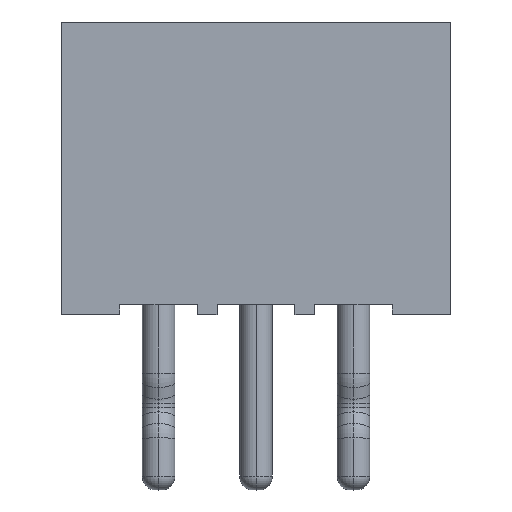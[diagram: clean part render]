
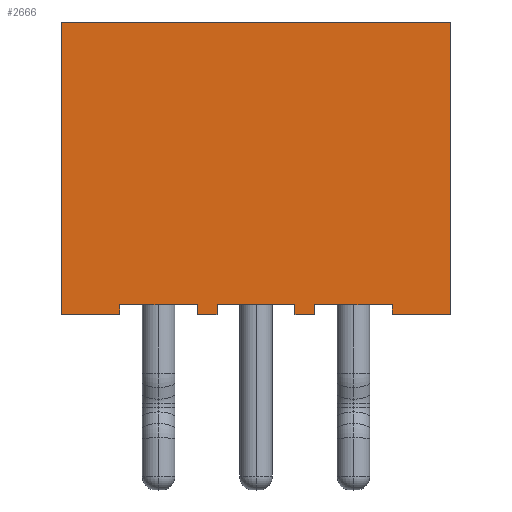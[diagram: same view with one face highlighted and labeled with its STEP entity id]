
A CAD part, top view. The second image highlights one B-rep face of the part: STEP entity #2666.
In plain terms, the highlighted planar face has unit normal (0, 0, 1).
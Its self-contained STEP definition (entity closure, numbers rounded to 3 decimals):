
#27 = CARTESIAN_POINT ( 'NONE',  ( 0.6, 4.5, 1.75 ) ) ;
#42 = FACE_OUTER_BOUND ( 'NONE', #3126, .T. ) ;
#52 = DIRECTION ( 'NONE',  ( 1., 0., 0. ) ) ;
#150 = VERTEX_POINT ( 'NONE', #1397 ) ;
#153 = DIRECTION ( 'NONE',  ( 0., 0., -1. ) ) ;
#175 = VERTEX_POINT ( 'NONE', #1196 ) ;
#185 = ORIENTED_EDGE ( 'NONE', *, *, #2445, .T. ) ;
#194 = DIRECTION ( 'NONE',  ( 1., 0., 0. ) ) ;
#197 = ORIENTED_EDGE ( 'NONE', *, *, #3076, .T. ) ;
#209 = VERTEX_POINT ( 'NONE', #488 ) ;
#229 = LINE ( 'NONE', #2907, #3239 ) ;
#240 = VECTOR ( 'NONE', #2068, 1000. ) ;
#241 = VERTEX_POINT ( 'NONE', #1980 ) ;
#256 = ORIENTED_EDGE ( 'NONE', *, *, #978, .T. ) ;
#278 = CARTESIAN_POINT ( 'NONE',  ( -0.6, 4.5, 1.75 ) ) ;
#305 = CARTESIAN_POINT ( 'NONE',  ( 0.6, 0., 1.75 ) ) ;
#337 = DIRECTION ( 'NONE',  ( 1., 0., 0. ) ) ;
#345 = EDGE_CURVE ( 'NONE', #175, #2899, #1984, .T. ) ;
#364 = LINE ( 'NONE', #1457, #1287 ) ;
#415 = EDGE_CURVE ( 'NONE', #1829, #2274, #1341, .T. ) ;
#488 = CARTESIAN_POINT ( 'NONE',  ( 3., 4.5, 1.75 ) ) ;
#537 = VECTOR ( 'NONE', #1949, 1000. ) ;
#555 = DIRECTION ( 'NONE',  ( 0., -1., 0. ) ) ;
#578 = EDGE_CURVE ( 'NONE', #150, #175, #1706, .T. ) ;
#638 = EDGE_CURVE ( 'NONE', #2836, #1303, #229, .T. ) ;
#658 = DIRECTION ( 'NONE',  ( 0., -1., 0. ) ) ;
#714 = DIRECTION ( 'NONE',  ( 1., 0., 0. ) ) ;
#733 = LINE ( 'NONE', #995, #797 ) ;
#797 = VECTOR ( 'NONE', #2264, 1000. ) ;
#828 = ORIENTED_EDGE ( 'NONE', *, *, #415, .T. ) ;
#900 = LINE ( 'NONE', #3065, #1236 ) ;
#901 = ORIENTED_EDGE ( 'NONE', *, *, #1213, .T. ) ;
#913 = CARTESIAN_POINT ( 'NONE',  ( -3., 0., 1.75 ) ) ;
#915 = VECTOR ( 'NONE', #1547, 1000. ) ;
#939 = CARTESIAN_POINT ( 'NONE',  ( 2.1, 0.15, 1.75 ) ) ;
#949 = CARTESIAN_POINT ( 'NONE',  ( -2.1, 0., 1.75 ) ) ;
#967 = VERTEX_POINT ( 'NONE', #1102 ) ;
#978 = EDGE_CURVE ( 'NONE', #1159, #1359, #2671, .T. ) ;
#995 = CARTESIAN_POINT ( 'NONE',  ( 2.1, 4.5, 1.75 ) ) ;
#1009 = CARTESIAN_POINT ( 'NONE',  ( -2.1, 0.15, 1.75 ) ) ;
#1017 = EDGE_CURVE ( 'NONE', #967, #1584, #364, .T. ) ;
#1042 = AXIS2_PLACEMENT_3D ( 'NONE', #3133, #153, #3217 ) ;
#1057 = ORIENTED_EDGE ( 'NONE', *, *, #2334, .F. ) ;
#1102 = CARTESIAN_POINT ( 'NONE',  ( 2.1, 0., 1.75 ) ) ;
#1106 = VECTOR ( 'NONE', #1816, 1000. ) ;
#1159 = VERTEX_POINT ( 'NONE', #1989 ) ;
#1169 = CARTESIAN_POINT ( 'NONE',  ( -0.9, 0.15, 1.75 ) ) ;
#1177 = CARTESIAN_POINT ( 'NONE',  ( 0.9, 0.15, 1.75 ) ) ;
#1196 = CARTESIAN_POINT ( 'NONE',  ( -0.6, 0., 1.75 ) ) ;
#1213 = EDGE_CURVE ( 'NONE', #241, #1159, #1572, .T. ) ;
#1233 = LINE ( 'NONE', #1540, #240 ) ;
#1234 = VERTEX_POINT ( 'NONE', #305 ) ;
#1236 = VECTOR ( 'NONE', #52, 1000. ) ;
#1287 = VECTOR ( 'NONE', #3174, 1000. ) ;
#1300 = VECTOR ( 'NONE', #714, 1000. ) ;
#1303 = VERTEX_POINT ( 'NONE', #1169 ) ;
#1341 = LINE ( 'NONE', #2054, #1106 ) ;
#1357 = ORIENTED_EDGE ( 'NONE', *, *, #2760, .T. ) ;
#1359 = VERTEX_POINT ( 'NONE', #949 ) ;
#1363 = LINE ( 'NONE', #1792, #1887 ) ;
#1397 = CARTESIAN_POINT ( 'NONE',  ( -0.9, 0., 1.75 ) ) ;
#1420 = VECTOR ( 'NONE', #1734, 1000. ) ;
#1449 = EDGE_CURVE ( 'NONE', #1359, #2836, #1363, .T. ) ;
#1457 = CARTESIAN_POINT ( 'NONE',  ( -3., 0., 1.75 ) ) ;
#1483 = ORIENTED_EDGE ( 'NONE', *, *, #1449, .T. ) ;
#1525 = ORIENTED_EDGE ( 'NONE', *, *, #2605, .T. ) ;
#1530 = CARTESIAN_POINT ( 'NONE',  ( -3., 4.5, 1.75 ) ) ;
#1540 = CARTESIAN_POINT ( 'NONE',  ( -3., 0.15, 1.75 ) ) ;
#1547 = DIRECTION ( 'NONE',  ( 0., -1., 0. ) ) ;
#1572 = LINE ( 'NONE', #1530, #915 ) ;
#1584 = VERTEX_POINT ( 'NONE', #2165 ) ;
#1608 = VERTEX_POINT ( 'NONE', #3074 ) ;
#1706 = LINE ( 'NONE', #2706, #1300 ) ;
#1734 = DIRECTION ( 'NONE',  ( 0., -1., 0. ) ) ;
#1792 = CARTESIAN_POINT ( 'NONE',  ( -2.1, 4.5, 1.75 ) ) ;
#1816 = DIRECTION ( 'NONE',  ( 0., 1., 0. ) ) ;
#1829 = VERTEX_POINT ( 'NONE', #2003 ) ;
#1865 = CARTESIAN_POINT ( 'NONE',  ( -3., 0., 1.75 ) ) ;
#1887 = VECTOR ( 'NONE', #2026, 1000. ) ;
#1891 = VECTOR ( 'NONE', #555, 1000. ) ;
#1949 = DIRECTION ( 'NONE',  ( 1., 0., 0. ) ) ;
#1973 = LINE ( 'NONE', #2545, #1891 ) ;
#1980 = CARTESIAN_POINT ( 'NONE',  ( -3., 4.5, 1.75 ) ) ;
#1984 = LINE ( 'NONE', #278, #2405 ) ;
#1989 = CARTESIAN_POINT ( 'NONE',  ( -3., 0., 1.75 ) ) ;
#2001 = VECTOR ( 'NONE', #658, 1000. ) ;
#2003 = CARTESIAN_POINT ( 'NONE',  ( 0.9, 0., 1.75 ) ) ;
#2026 = DIRECTION ( 'NONE',  ( 0., 1., 0. ) ) ;
#2031 = EDGE_CURVE ( 'NONE', #2274, #2382, #900, .T. ) ;
#2046 = CARTESIAN_POINT ( 'NONE',  ( -0.6, 0.15, 1.75 ) ) ;
#2054 = CARTESIAN_POINT ( 'NONE',  ( 0.9, 4.5, 1.75 ) ) ;
#2068 = DIRECTION ( 'NONE',  ( 1., 0., 0. ) ) ;
#2102 = ORIENTED_EDGE ( 'NONE', *, *, #2031, .T. ) ;
#2127 = ORIENTED_EDGE ( 'NONE', *, *, #2791, .T. ) ;
#2165 = CARTESIAN_POINT ( 'NONE',  ( 3., 0., 1.75 ) ) ;
#2264 = DIRECTION ( 'NONE',  ( 0., -1., 0. ) ) ;
#2274 = VERTEX_POINT ( 'NONE', #1177 ) ;
#2297 = DIRECTION ( 'NONE',  ( 0., 1., 0. ) ) ;
#2334 = EDGE_CURVE ( 'NONE', #241, #209, #2336, .T. ) ;
#2336 = LINE ( 'NONE', #2500, #537 ) ;
#2368 = VECTOR ( 'NONE', #337, 1000. ) ;
#2382 = VERTEX_POINT ( 'NONE', #939 ) ;
#2405 = VECTOR ( 'NONE', #2297, 1000. ) ;
#2431 = PLANE ( 'NONE',  #1042 ) ;
#2445 = EDGE_CURVE ( 'NONE', #2899, #1608, #1233, .T. ) ;
#2470 = LINE ( 'NONE', #2655, #2001 ) ;
#2500 = CARTESIAN_POINT ( 'NONE',  ( -3., 4.5, 1.75 ) ) ;
#2545 = CARTESIAN_POINT ( 'NONE',  ( 3., 4.5, 1.75 ) ) ;
#2605 = EDGE_CURVE ( 'NONE', #1234, #1829, #3119, .T. ) ;
#2644 = ORIENTED_EDGE ( 'NONE', *, *, #578, .T. ) ;
#2655 = CARTESIAN_POINT ( 'NONE',  ( -0.9, 4.5, 1.75 ) ) ;
#2666 = ADVANCED_FACE ( 'NONE', ( #42 ), #2431, .F. ) ;
#2671 = LINE ( 'NONE', #913, #3148 ) ;
#2706 = CARTESIAN_POINT ( 'NONE',  ( -3., 0., 1.75 ) ) ;
#2719 = LINE ( 'NONE', #27, #1420 ) ;
#2760 = EDGE_CURVE ( 'NONE', #1608, #1234, #2719, .T. ) ;
#2791 = EDGE_CURVE ( 'NONE', #2382, #967, #733, .T. ) ;
#2815 = ORIENTED_EDGE ( 'NONE', *, *, #345, .T. ) ;
#2836 = VERTEX_POINT ( 'NONE', #1009 ) ;
#2899 = VERTEX_POINT ( 'NONE', #2046 ) ;
#2907 = CARTESIAN_POINT ( 'NONE',  ( -3., 0.15, 1.75 ) ) ;
#2948 = EDGE_CURVE ( 'NONE', #209, #1584, #1973, .T. ) ;
#3017 = ORIENTED_EDGE ( 'NONE', *, *, #1017, .T. ) ;
#3065 = CARTESIAN_POINT ( 'NONE',  ( -3., 0.15, 1.75 ) ) ;
#3074 = CARTESIAN_POINT ( 'NONE',  ( 0.6, 0.15, 1.75 ) ) ;
#3076 = EDGE_CURVE ( 'NONE', #1303, #150, #2470, .T. ) ;
#3119 = LINE ( 'NONE', #1865, #2368 ) ;
#3126 = EDGE_LOOP ( 'NONE', ( #256, #1483, #3159, #197, #2644, #2815, #185, #1357, #1525, #828, #2102, #2127, #3017, #3165, #1057, #901 ) ) ;
#3133 = CARTESIAN_POINT ( 'NONE',  ( -3., 4.5, 1.75 ) ) ;
#3137 = DIRECTION ( 'NONE',  ( 1., 0., 0. ) ) ;
#3148 = VECTOR ( 'NONE', #3137, 1000. ) ;
#3159 = ORIENTED_EDGE ( 'NONE', *, *, #638, .T. ) ;
#3165 = ORIENTED_EDGE ( 'NONE', *, *, #2948, .F. ) ;
#3174 = DIRECTION ( 'NONE',  ( 1., 0., 0. ) ) ;
#3217 = DIRECTION ( 'NONE',  ( -1., 0., 0. ) ) ;
#3239 = VECTOR ( 'NONE', #194, 1000. ) ;
